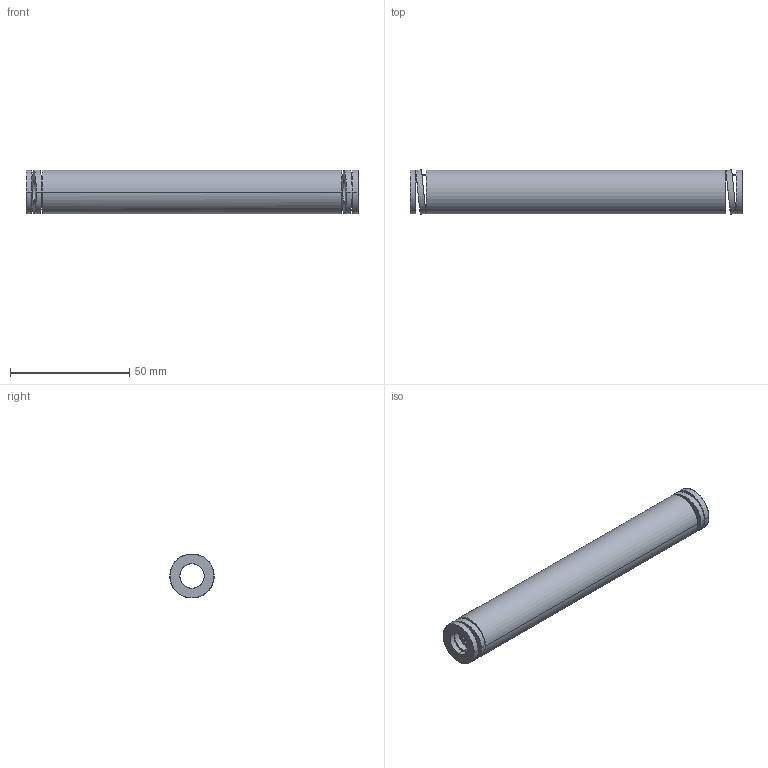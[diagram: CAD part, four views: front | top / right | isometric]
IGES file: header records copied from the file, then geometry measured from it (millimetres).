
Start section: START RECORD GO HERE.
Global section: file name: 392-B20-139.igs; native system: DASSAULT SYSTEMES CATIA V5 R20 - www.3ds.com; preprocessor: CATIA Version 5 Release 20 ; author: Utente; organization: NB04-ASUS; date: 20210812.154446; units: millimetre
Bounding box: 139 x 18.55 x 18.4 mm (x, y, z)
Surface area: 13985.6 mm2 (no closed solid volume)
Topology: 0 solids, 0 shells, 38 faces, 184 edges, 184 vertices
Faces by surface type: revolution 28, plane 10
